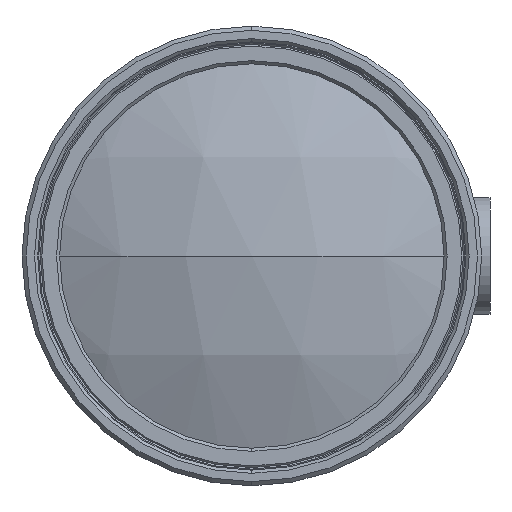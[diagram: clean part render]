
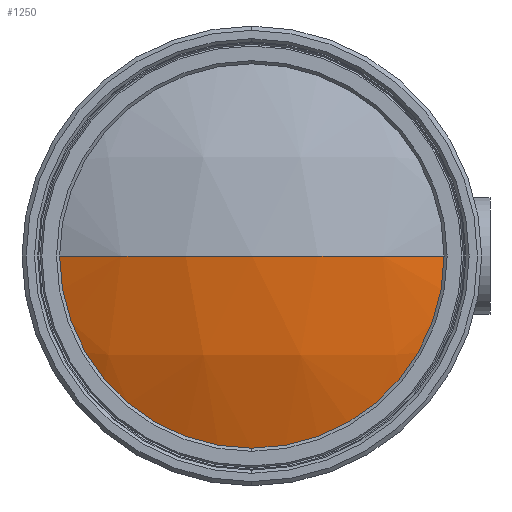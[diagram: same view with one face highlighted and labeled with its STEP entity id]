
A CAD part, left-side view. The second image highlights one B-rep face of the part: STEP entity #1250.
In plain terms, the highlighted spherical face has radius 55.84 mm.
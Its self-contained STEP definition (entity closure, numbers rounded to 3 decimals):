
#540 = ORIENTED_EDGE ( 'NONE', *, *, #3202, .T. ) ;
#592 = DIRECTION ( 'NONE',  ( 0., 0., 1. ) ) ;
#599 = AXIS2_PLACEMENT_3D ( 'NONE', #1859, #792, #3253 ) ;
#792 = DIRECTION ( 'NONE',  ( 0., 0., 1. ) ) ;
#851 = VERTEX_POINT ( 'NONE', #2245 ) ;
#945 = CIRCLE ( 'NONE', #2225, 23.1 ) ;
#1025 = FACE_OUTER_BOUND ( 'NONE', #2795, .T. ) ;
#1101 = AXIS2_PLACEMENT_3D ( 'NONE', #1218, #4034, #1255 ) ;
#1201 = EDGE_CURVE ( 'NONE', #4524, #851, #4035, .T. ) ;
#1218 = CARTESIAN_POINT ( 'NONE',  ( 7.066, 0., 0. ) ) ;
#1250 = ADVANCED_FACE ( 'NONE', ( #1025 ), #1633, .T. ) ;
#1255 = DIRECTION ( 'NONE',  ( 0., 0., 1. ) ) ;
#1453 = ORIENTED_EDGE ( 'NONE', *, *, #3075, .T. ) ;
#1547 = CIRCLE ( 'NONE', #1101, 23.1 ) ;
#1633 = SPHERICAL_SURFACE ( 'NONE', #4153, 55.84 ) ;
#1856 = CARTESIAN_POINT ( 'NONE',  ( 7.066, -23.1, 0. ) ) ;
#1859 = CARTESIAN_POINT ( 'NONE',  ( 57.904, 0., 0. ) ) ;
#1950 = DIRECTION ( 'NONE',  ( 0., 0., -1. ) ) ;
#2040 = VERTEX_POINT ( 'NONE', #3521 ) ;
#2218 = CARTESIAN_POINT ( 'NONE',  ( 7.066, 0., -23.1 ) ) ;
#2225 = AXIS2_PLACEMENT_3D ( 'NONE', #2352, #2714, #592 ) ;
#2245 = CARTESIAN_POINT ( 'NONE',  ( 2.064, 0., 0. ) ) ;
#2352 = CARTESIAN_POINT ( 'NONE',  ( 7.066, 0., 0. ) ) ;
#2714 = DIRECTION ( 'NONE',  ( -1., 0., 0. ) ) ;
#2795 = EDGE_LOOP ( 'NONE', ( #540, #3994, #3814, #1453 ) ) ;
#3003 = DIRECTION ( 'NONE',  ( 0., 1., 0. ) ) ;
#3075 = EDGE_CURVE ( 'NONE', #2040, #4361, #945, .T. ) ;
#3202 = EDGE_CURVE ( 'NONE', #4361, #4524, #1547, .T. ) ;
#3253 = DIRECTION ( 'NONE',  ( 1., 0., 0. ) ) ;
#3521 = CARTESIAN_POINT ( 'NONE',  ( 7.066, 23.1, 0. ) ) ;
#3522 = CIRCLE ( 'NONE', #599, 55.84 ) ;
#3555 = AXIS2_PLACEMENT_3D ( 'NONE', #4041, #1950, #3003 ) ;
#3720 = CARTESIAN_POINT ( 'NONE',  ( 57.904, 0., 0. ) ) ;
#3814 = ORIENTED_EDGE ( 'NONE', *, *, #4303, .F. ) ;
#3994 = ORIENTED_EDGE ( 'NONE', *, *, #1201, .T. ) ;
#4020 = DIRECTION ( 'NONE',  ( 0., 0., -1. ) ) ;
#4034 = DIRECTION ( 'NONE',  ( -1., 0., 0. ) ) ;
#4035 = CIRCLE ( 'NONE', #3555, 55.84 ) ;
#4041 = CARTESIAN_POINT ( 'NONE',  ( 57.904, 0., 0. ) ) ;
#4052 = DIRECTION ( 'NONE',  ( 0., 1., 0. ) ) ;
#4153 = AXIS2_PLACEMENT_3D ( 'NONE', #3720, #4020, #4052 ) ;
#4303 = EDGE_CURVE ( 'NONE', #2040, #851, #3522, .T. ) ;
#4361 = VERTEX_POINT ( 'NONE', #2218 ) ;
#4524 = VERTEX_POINT ( 'NONE', #1856 ) ;
